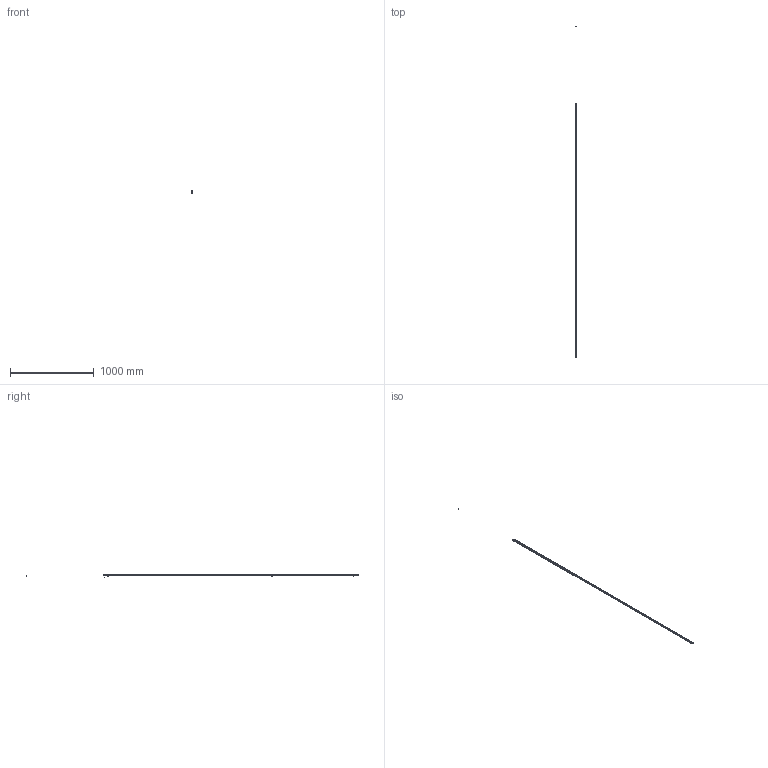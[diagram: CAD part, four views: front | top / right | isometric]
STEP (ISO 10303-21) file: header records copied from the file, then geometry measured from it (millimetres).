
FILE_DESCRIPTION (( 'STEP AP214' ), '1' );
FILE_NAME ('ILGA-B-K1a-3030mm.STEP', '2026-04-24T22:54:33', ( '' ), ( '' ), 'SwSTEP 2.0', 'SolidWorks 2025', '' );
FILE_SCHEMA (( 'AUTOMOTIVE_DESIGN' ));
Length unit declared in the file: millimetre
Products named in the file (1): ILGA-B-K1a-3030mm
Bounding box: 22.4 x 3959.48 x 34.2 mm (x, y, z)
Volume: 225749.5 mm3; surface area: 409555.7 mm2
Topology: 13 solids, 13 shells, 728 faces, 1866 edges, 1142 vertices
Faces by surface type: plane 314, cylinder 270, cone 60, torus 44, bspline 24, sphere 16
Entity records: 30387 total; most frequent: CARTESIAN_POINT 4637, DIRECTION 3846, ORIENTED_EDGE 3644, EDGE_CURVE 1822, AXIS2_PLACEMENT_3D 1439, VERTEX_POINT 1142, LINE 968, VECTOR 968
